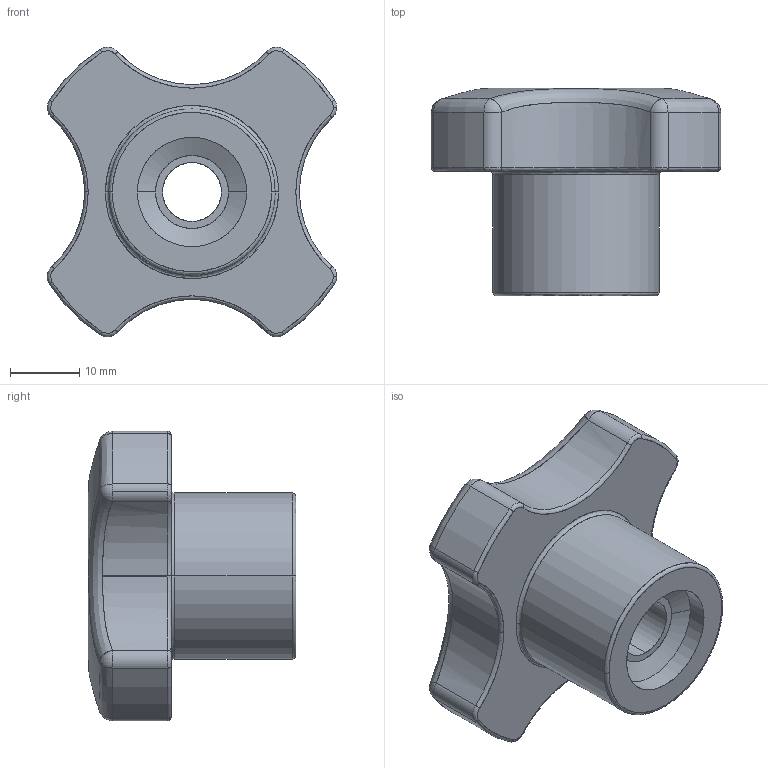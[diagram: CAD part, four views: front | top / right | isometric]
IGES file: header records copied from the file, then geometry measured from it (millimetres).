
Start section: SolidWorks IGES file using analytic representation for surfaces
Global section: file name: C:\Projetos\Componentes\13.Manipulo\13.20003.IGS; native system: SolidWorks 2012; preprocessor: SolidWorks 2012; author: Ricardo; date: 121219.144246; units: millimetre
Bounding box: 41.8 x 30 x 41.8 mm (x, y, z)
Surface area: 6453 mm2 (no closed solid volume)
Topology: 0 solids, 0 shells, 77 faces, 908 edges, 904 vertices
Faces by surface type: revolution 39, bspline 38
